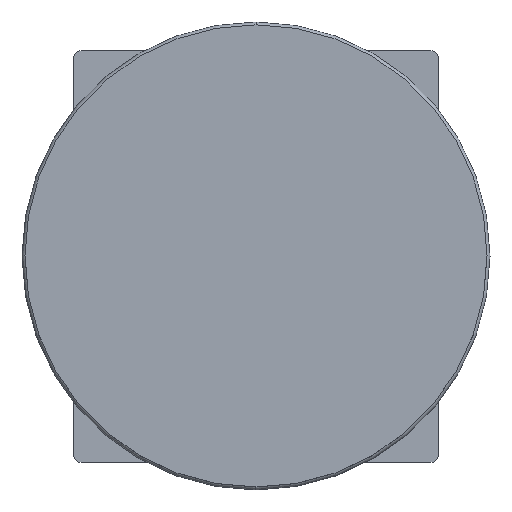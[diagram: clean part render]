
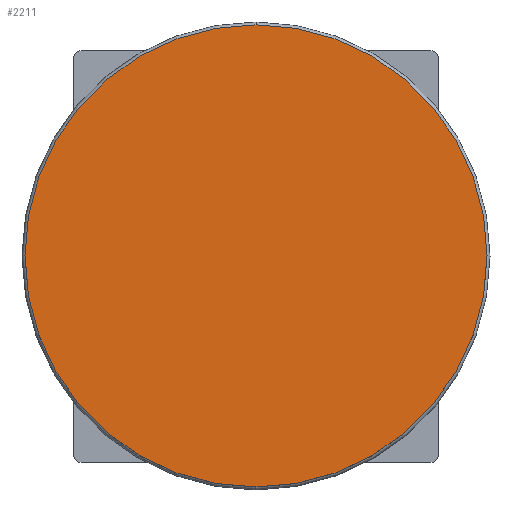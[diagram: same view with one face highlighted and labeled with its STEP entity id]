
A CAD part, top view. The second image highlights one B-rep face of the part: STEP entity #2211.
In plain terms, the highlighted planar face has unit normal (0, 0, 1).
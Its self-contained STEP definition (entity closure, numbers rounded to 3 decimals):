
#590=CARTESIAN_POINT('',(0.,0.,244.3));
#591=DIRECTION('',(0.,0.,-1.));
#592=DIRECTION('',(0.,1.,0.));
#593=AXIS2_PLACEMENT_3D('',#590,#591,#592);
#595=CARTESIAN_POINT('',(0.,0.,244.3));
#596=DIRECTION('',(0.,0.,1.));
#597=DIRECTION('',(0.,1.,0.));
#598=AXIS2_PLACEMENT_3D('',#595,#596,#597);
#633=CARTESIAN_POINT('',(0.,156.5,244.3));
#635=VERTEX_POINT('',#633);
#639=CARTESIAN_POINT('',(0.,-156.5,244.3));
#641=VERTEX_POINT('',#639);
#2202=CARTESIAN_POINT('',(0.,0.,244.3));
#2203=DIRECTION('',(0.,0.,1.));
#2204=DIRECTION('',(0.,1.,0.));
#2205=AXIS2_PLACEMENT_3D('',#2202,#2203,#2204);
#2206=PLANE('',#2205);
#2207=ORIENTED_EDGE('',*,*,#2184,.T.);
#2208=ORIENTED_EDGE('',*,*,#2195,.F.);
#2209=EDGE_LOOP('',(#2207,#2208));
#2210=FACE_OUTER_BOUND('',#2209,.F.);
#594=CIRCLE('',#593,156.5);
#599=CIRCLE('',#598,156.5);
#2184=EDGE_CURVE('',#635,#641,#594,.T.);
#2195=EDGE_CURVE('',#635,#641,#599,.T.);
#2211=ADVANCED_FACE('',(#2210),#2206,.T.);
